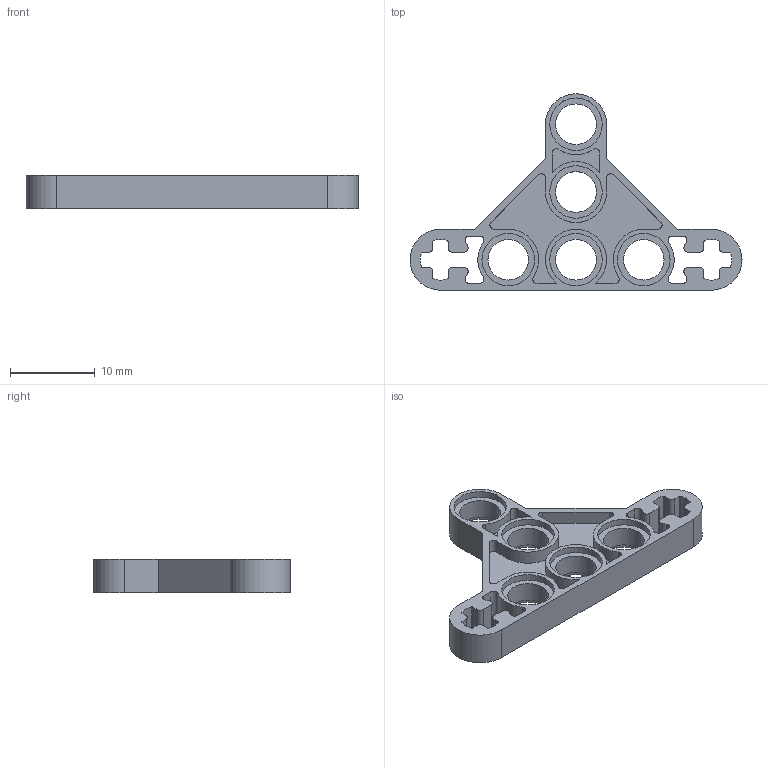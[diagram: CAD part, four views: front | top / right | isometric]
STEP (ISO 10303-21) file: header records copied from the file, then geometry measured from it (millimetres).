
FILE_DESCRIPTION(/* description */ ('Unknown'),/* implementation_level */ '2;1');
FILE_NAME(/* name */ 'Ye_6010863_AVV',/* time_stamp */ '2025-07-22T00:10:52+02:00',/* author */ ('Unknown'),/* organization */ ('Unknown'),/* preprocessor_version */ 'ST-DEVELOPER v19.4',/* originating_system */ 'Solid Edge',/* authorisation */ 'Unknown');
FILE_SCHEMA (('AUTOMOTIVE_DESIGN {1 0 10303 214 3 1 1}'));
Length unit declared in the file: millimetre
Products named in the file (1): Ye_6010863_AVV
Bounding box: 39.2 x 23.2 x 4 mm (x, y, z)
Volume: 841.9 mm3; surface area: 1933.5 mm2
Topology: 1 solids, 1 shells, 153 faces, 411 edges, 274 vertices
Faces by surface type: cylinder 90, plane 63
Full cylindrical faces by diameter (mm): 4.8 x5, 6.2 x10
Entity records: 4848 total; most frequent: DIRECTION 884, CARTESIAN_POINT 824, ORIENTED_EDGE 792, EDGE_CURVE 396, AXIS2_PLACEMENT_3D 334, VERTEX_POINT 274, LINE 216, VECTOR 216
